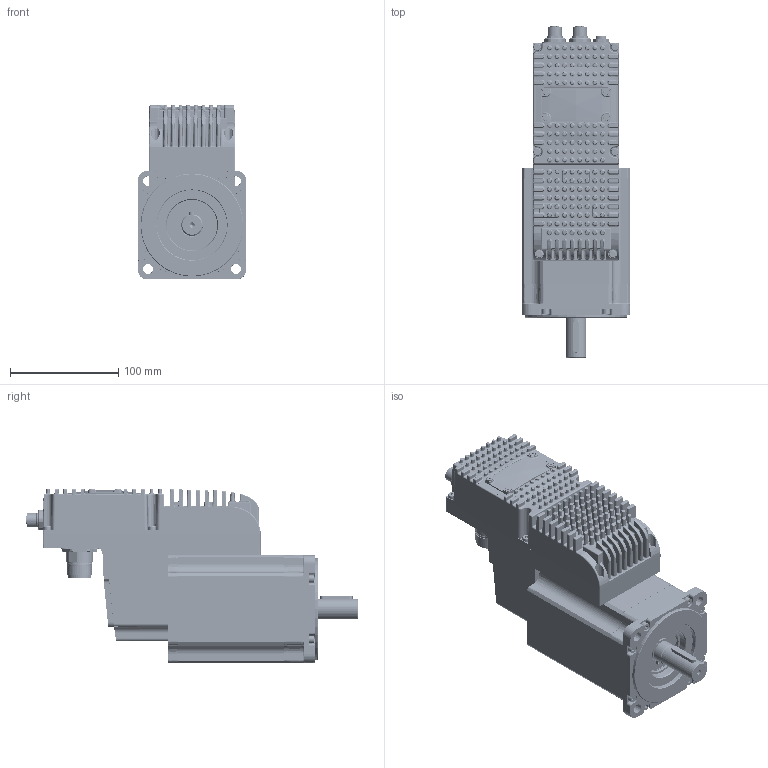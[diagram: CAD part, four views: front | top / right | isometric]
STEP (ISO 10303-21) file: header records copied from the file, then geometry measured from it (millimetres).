
FILE_DESCRIPTION(('CATIA V5 STEP Exchange'),'2;1');
FILE_NAME('F:\Meccanica\IBD\100\3D\assemblati\custom MPC\DUET HV 100 5,6 A1 0 E 0\MD301524.0.0\DUET_HV_100_5,6_A1_0_E_0.stp','2015-07-23T08:09:21+00:00',('none'),('none'),'CATIA Version 5 Release 19 SP 2 (IN-10)','CATIA V5 STEP AP214','none');
FILE_SCHEMA(('AUTOMOTIVE_DESIGN { 1 0 10303 214 1 1 1 1 }'));
Products named in the file (54): DUET HV 100 5,6 A1 0 E 0; MD151014.1.0; MD081003.2.0; V_VTCTX40X12A; V_VTCTX3X6(8.8); LC101004.2.2.n; JS20MNQD6; JS26FSQ7; LT709037RLF1; UKSZ8721BLI; UET1100; JTP1633-2; PC101004.1.0; DLS5977701507; DLRR; DLRV; DWFR01FR10PS; LC051027.2.0; J_7458000000; Connettore_M23_IO; J_7001919137; frutto 16+3; contatto_1mm; contatto_1.5.mm; J_7651000000; Connettore_M23_pot; J_7084943101; JAC7010941001; JAC7010942001; MD081005.6.0; LC101003.3.0; PC101003.3.0; J_4301236; J_RKMHL4S55; JS20FDT7; dado_M12_conec; dado_M8_lumberg; Dado_M23_IO; MMTC1005.6171012580Z4; Vite a brugola testa cil 8,8 -  M  3 x 10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
Assembly tree (111 placements, depth 4):
  DUET HV 100 5,6 A1 0 E 0
    MD151014.1.0
    MD081003.2.0
    V_VTCTX40X12A  x6
    V_VTCTX3X6(8.8)  x4
    LC101004.2.2.n
      JS20MNQD6
      JS26FSQ7
      LT709037RLF1  x2
      UKSZ8721BLI  x2
      UET1100
      JTP1633-2  x2
      PC101004.1.0
      DLS5977701507  x6
      DLRR
      DLRV  x3
      DWFR01FR10PS  x3
    LC051027.2.0
      J_7458000000
        Connettore_M23_IO
      J_7001919137
        frutto 16+3
        contatto_1mm  x16
        contatto_1.5.mm  x3
      J_7651000000
        Connettore_M23_pot
      J_7084943101
      JAC7010941001  x4
      JAC7010942001  x3
    MD081005.6.0
    LC101003.3.0
      PC101003.3.0
      J_4301236  x2
      J_RKMHL4S55
      JS20FDT7
    dado_M12_conec  x2
    dado_M8_lumberg
    Dado_M23_IO  x2
    MMTC1005.6171012580Z4
      Vite a brugola testa cil 8,8 -  M  3 x 10  x2
      Vite a brugola testa cil 8,8 -  M  3 x 50  x2
      Vite a brugola testa cil 8,8 -  M  3 x 60  x2
      KI 100 6Nm_pred kit azionamento_enc std_OIH48_vuoto
        A-Ela 20 P
        CUSC_20_52_15_6304_ZZ_3
        LI-PIA   6x6 x 30
        N33454
        N33454_1
        N09465
        Vite a brugola testa cil 8,8 -  M  4 x 12  x4
        Vite a brugola testa cil 8,8 -  M  4 x 30  x8
        N25417_6
        N01596_6,5
      MD081001.4.0
Bounding box: 100 x 307 x 161.2 mm (x, y, z)
Volume: 939836 mm3; surface area: 452275.6 mm2
Topology: 112 solids, 115 shells, 10936 faces, 29054 edges, 18619 vertices
Faces by surface type: plane 4358, cylinder 3444, torus 961, cone 952, bspline 717, sphere 377, extrusion 123, revolution 4
Entity records: 346502 total; most frequent: CARTESIAN_POINT 117392, ORIENTED_EDGE 45024, DIRECTION 30433, EDGE_CURVE 22512, VERTEX_POINT 14554, AXIS2_PLACEMENT_3D 13916, VECTOR 10300, LINE 10177
